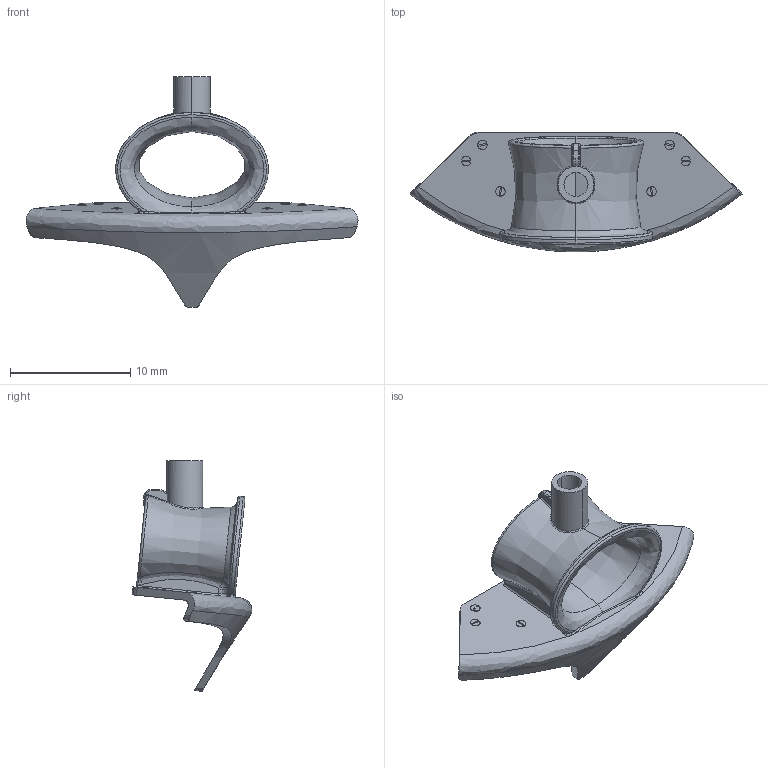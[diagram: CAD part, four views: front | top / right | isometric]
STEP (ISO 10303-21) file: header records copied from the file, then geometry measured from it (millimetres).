
FILE_DESCRIPTION(/* description */ ('','CAx-IF Rec.Pracs.---Representation and Presentation of Product Manufacturing Information (PMI)---4.0---2014-10-13'),/* implementation_level */ '2;1');
FILE_NAME(/* name */ 'Higgins20thBowFairlead.step',/* time_stamp */ '2025-02-16T17:58:12+11:00',/* author */ (''),/* organization */ (''),/* preprocessor_version */ 'ST-DEVELOPER v20',/* originating_system */ 'Autodesk Translation Framework v13.20.0.188',/* authorisation */ '');
FILE_SCHEMA (('AP242_MANAGED_MODEL_BASED_3D_ENGINEERING_MIM_LF { 1 0 10303 442 1 1 4 }'));
Length unit declared in the file: millimetre
Products named in the file (1): Higgins20thExhausts
Bounding box: 27.61 x 9.97 x 19.19 mm (x, y, z)
Volume: 359.5 mm3; surface area: 1058.7 mm2
Topology: 1 solids, 1 shells, 160 faces, 396 edges, 245 vertices
Faces by surface type: bspline 84, plane 45, cylinder 29, torus 2
Entity records: 8748 total; most frequent: CARTESIAN_POINT 5540, ORIENTED_EDGE 788, DIRECTION 427, EDGE_CURVE 394, VERTEX_POINT 245, B_SPLINE_CURVE_WITH_KNOTS 212, EDGE_LOOP 173, AXIS2_PLACEMENT_3D 168
